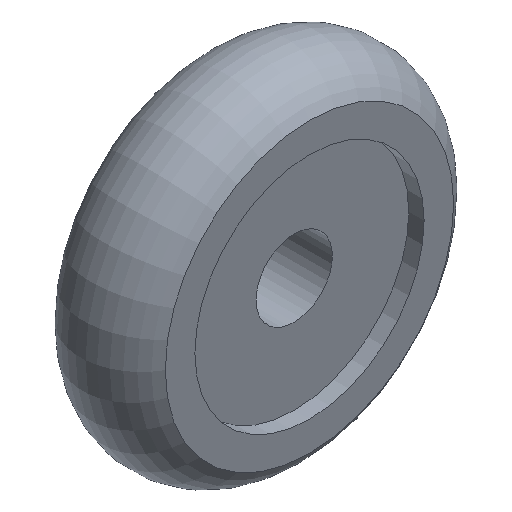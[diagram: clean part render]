
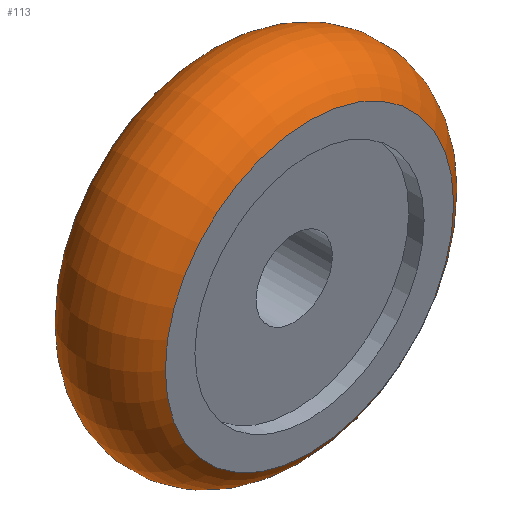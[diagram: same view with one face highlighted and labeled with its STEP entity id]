
A CAD part, isometric view. The second image highlights one B-rep face of the part: STEP entity #113.
In plain terms, the highlighted toroidal (fillet/blend) face has major radius 7.5 mm and minor radius 4 mm.
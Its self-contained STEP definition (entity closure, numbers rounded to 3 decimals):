
#13=TOROIDAL_SURFACE('',#142,7.5,4.);
#36=FACE_OUTER_BOUND('',#47,.T.);
#47=EDGE_LOOP('',(#94,#95,#96,#97));
#55=CIRCLE('',#140,9.436);
#57=CIRCLE('',#143,9.436);
#58=CIRCLE('',#144,4.);
#64=VERTEX_POINT('',#203);
#66=VERTEX_POINT('',#208);
#74=EDGE_CURVE('',#64,#64,#55,.T.);
#76=EDGE_CURVE('',#66,#66,#57,.T.);
#77=EDGE_CURVE('',#66,#64,#58,.T.);
#94=ORIENTED_EDGE('',*,*,#76,.F.);
#95=ORIENTED_EDGE('',*,*,#77,.T.);
#96=ORIENTED_EDGE('',*,*,#74,.T.);
#97=ORIENTED_EDGE('',*,*,#77,.F.);
#113=ADVANCED_FACE('',(#36),#13,.T.);
#140=AXIS2_PLACEMENT_3D('',#204,#170,#171);
#142=AXIS2_PLACEMENT_3D('',#207,#174,#175);
#143=AXIS2_PLACEMENT_3D('',#209,#176,#177);
#144=AXIS2_PLACEMENT_3D('',#210,#178,#179);
#170=DIRECTION('center_axis',(0.,1.,0.));
#171=DIRECTION('ref_axis',(1.,0.,0.));
#174=DIRECTION('center_axis',(0.,1.,0.));
#175=DIRECTION('ref_axis',(0.,0.,1.));
#176=DIRECTION('center_axis',(0.,1.,0.));
#177=DIRECTION('ref_axis',(1.,0.,0.));
#178=DIRECTION('center_axis',(-1.,0.,0.));
#179=DIRECTION('ref_axis',(0.,0.,-1.));
#203=CARTESIAN_POINT('',(0.,-3.5,-9.436));
#204=CARTESIAN_POINT('Origin',(0.,-3.5,0.));
#207=CARTESIAN_POINT('Origin',(0.,0.,0.));
#208=CARTESIAN_POINT('',(0.,3.5,-9.436));
#209=CARTESIAN_POINT('Origin',(0.,3.5,0.));
#210=CARTESIAN_POINT('Origin',(0.,0.,-7.5));
